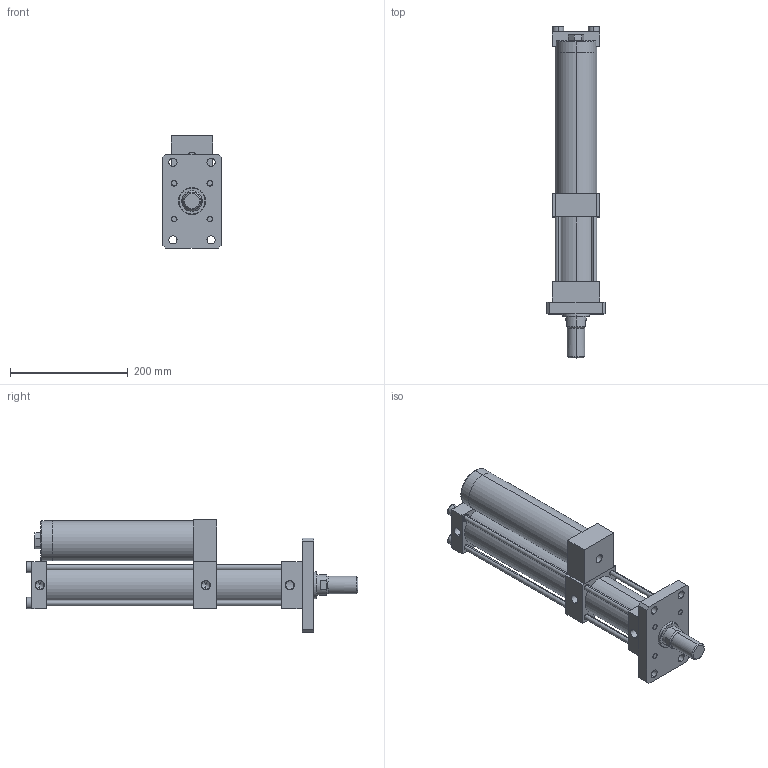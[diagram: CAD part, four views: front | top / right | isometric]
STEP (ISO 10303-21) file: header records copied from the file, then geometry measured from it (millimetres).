
FILE_DESCRIPTION (( 'STEP AP203' ), '1' );
FILE_NAME ('MPT-63-50-20-1T.STEP', '2016-03-17T09:39:22', ( 'WIN' ), ( '' ), 'SwSTEP 2.0', 'SolidWorks 2014', '' );
FILE_SCHEMA (( 'CONFIG_CONTROL_DESIGN' ));
Length unit declared in the file: millimetre
Products named in the file (1): MPT-63-50-20-1T
Bounding box: 100 x 565 x 191 mm (x, y, z)
Volume: 2422835.6 mm3; surface area: 439058.3 mm2
Topology: 14 solids, 14 shells, 247 faces, 561 edges, 352 vertices
Faces by surface type: plane 127, cylinder 84, cone 24, torus 12
Entity records: 7103 total; most frequent: DIRECTION 1284, CARTESIAN_POINT 1254, ORIENTED_EDGE 1110, EDGE_CURVE 555, AXIS2_PLACEMENT_3D 492, VERTEX_POINT 352, EDGE_LOOP 301, LINE 300
